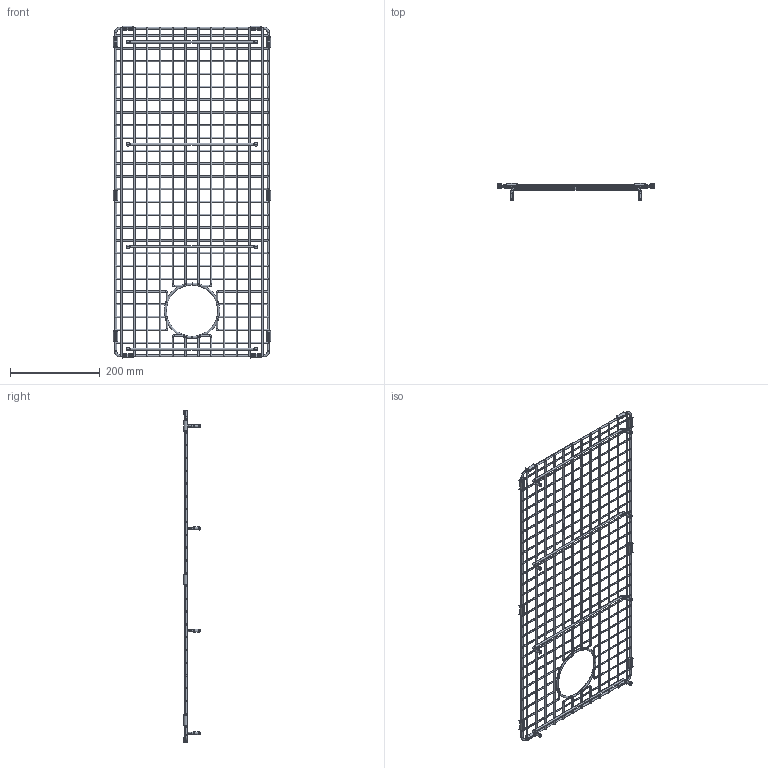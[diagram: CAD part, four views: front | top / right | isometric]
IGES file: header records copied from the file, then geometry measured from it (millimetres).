
Start section:  PTC IGES file: sku_wsgalum3319ws_igs,igs.igs
Bounding box: 350.96 x 36.89 x 741.48 mm (x, y, z)
Surface area: 354656.5 mm2 (no closed solid volume)
Topology: 0 solids, 0 shells, 980 faces, 23454 edges, 32297 vertices
Faces by surface type: revolution 704, bspline 276
